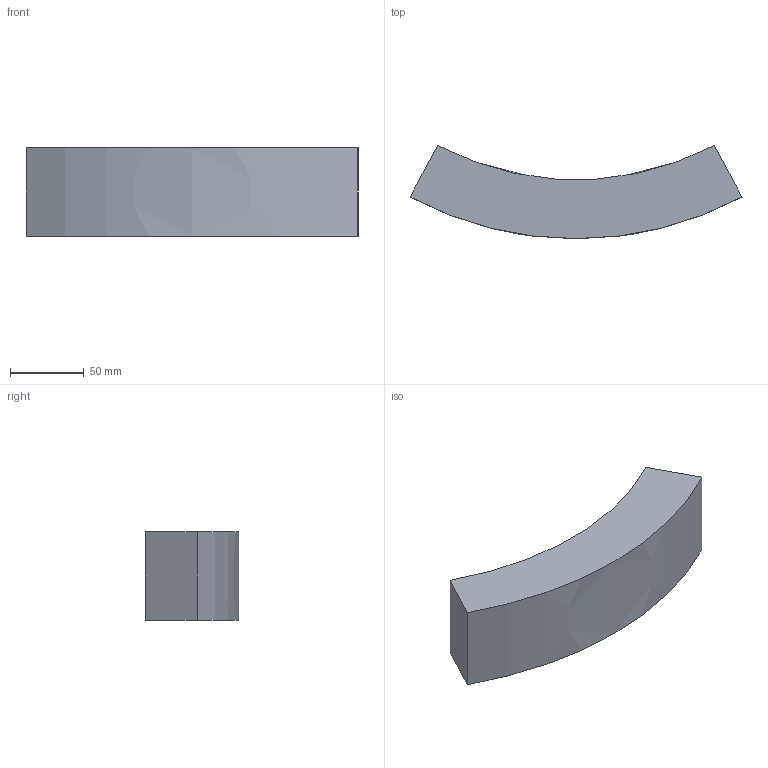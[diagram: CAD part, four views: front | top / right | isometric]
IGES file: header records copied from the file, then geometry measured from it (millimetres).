
Start section:  PTC IGES file: d160-1600_fixbloc_d200_pk-01.igs
Global section: file name: d160-1600_fixbloc_d200_pk-01.igs; native system: Creo Parametric by PTC Inc.; preprocessor: 2019030; author: demmerls; organization: Unknown; date: 20200925.140811; units: millimetre
Bounding box: 225.84 x 63.52 x 60 mm (x, y, z)
Surface area: 47906.8 mm2 (no closed solid volume)
Topology: 0 solids, 0 shells, 6 faces, 24 edges, 24 vertices
Faces by surface type: bspline 6
